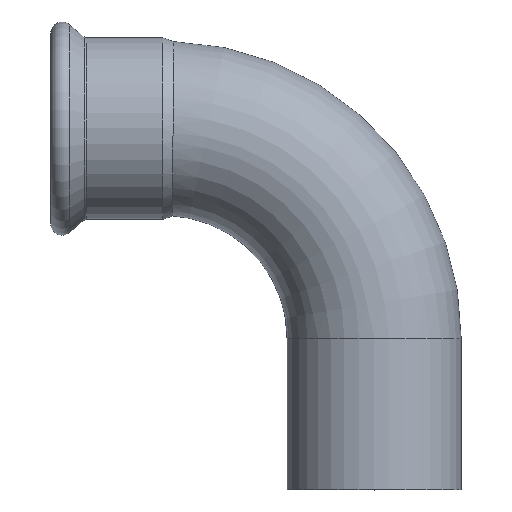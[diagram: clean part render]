
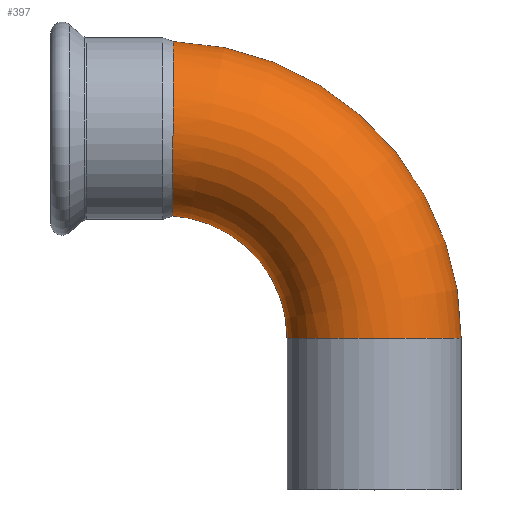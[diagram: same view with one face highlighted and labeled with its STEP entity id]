
A CAD part, top view. The second image highlights one B-rep face of the part: STEP entity #397.
In plain terms, the highlighted toroidal (fillet/blend) face has major radius 130 mm and minor radius 54 mm.
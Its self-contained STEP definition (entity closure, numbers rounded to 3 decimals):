
#332=CARTESIAN_POINT('',(184.0,-130.,0.));
#333=VERTEX_POINT('',#332);
#334=CARTESIAN_POINT('',(130.0,-130.,0.0));
#335=DIRECTION('',(0.0,1.0,0.0));
#336=DIRECTION('',(-1.0,0.0,0.0));
#337=AXIS2_PLACEMENT_3D('',#334,#335,#336);
#338=CIRCLE('',#337,54.0);
#339=EDGE_CURVE('',#333,#333,#338,.T.);
#344=CARTESIAN_POINT('',(0.,-130.0,0.0));
#345=DIRECTION('',(0.0,0.0,-1.0));
#346=DIRECTION('',(-1.0,0.0,0.0));
#347=AXIS2_PLACEMENT_3D('',#344,#345,#346);
#348=TOROIDAL_SURFACE('',#347,130.0,54.0);
#349=ORIENTED_EDGE('',*,*,#339,.T.);
#350=EDGE_LOOP('',(#349));
#351=FACE_OUTER_BOUND('',#350,.T.);
#352=CARTESIAN_POINT('',(5.538,53.917,0.));
#353=VERTEX_POINT('',#352);
#354=CARTESIAN_POINT('',(5.538,53.917,0.));
#355=CARTESIAN_POINT('',(5.538,53.917,-7.004));
#356=CARTESIAN_POINT('',(5.534,52.553,-13.942));
#357=CARTESIAN_POINT('',(5.516,47.291,-26.815));
#358=CARTESIAN_POINT('',(5.503,43.478,-32.645));
#359=CARTESIAN_POINT('',(5.467,33.936,-42.477));
#360=CARTESIAN_POINT('',(5.445,28.324,-46.418));
#361=CARTESIAN_POINT('',(5.391,16.015,-51.974));
#362=CARTESIAN_POINT('',(5.36,9.442,-53.571));
#363=CARTESIAN_POINT('',(5.289,-3.932,-54.277));
#364=CARTESIAN_POINT('',(5.249,-10.616,-53.389));
#365=CARTESIAN_POINT('',(5.162,-23.458,-49.175));
#366=CARTESIAN_POINT('',(5.116,-29.488,-45.834));
#367=CARTESIAN_POINT('',(5.025,-40.22,-36.886));
#368=CARTESIAN_POINT('',(4.98,-44.745,-31.27));
#369=CARTESIAN_POINT('',(4.917,-50.782,-19.689));
#370=CARTESIAN_POINT('',(4.896,-52.636,-14.026));
#371=CARTESIAN_POINT('',(4.879,-54.087,-4.566));
#372=CARTESIAN_POINT('',(4.877,-54.273,-0.911));
#373=CARTESIAN_POINT('',(4.882,-53.872,6.974));
#374=CARTESIAN_POINT('',(4.89,-53.157,11.171));
#375=CARTESIAN_POINT('',(4.926,-49.93,22.126));
#376=CARTESIAN_POINT('',(4.963,-46.548,28.537));
#377=CARTESIAN_POINT('',(5.047,-37.673,39.424));
#378=CARTESIAN_POINT('',(5.093,-32.357,43.871));
#379=CARTESIAN_POINT('',(5.187,-20.097,50.676));
#380=CARTESIAN_POINT('',(5.233,-13.215,52.873));
#381=CARTESIAN_POINT('',(5.317,0.993,54.459));
#382=CARTESIAN_POINT('',(5.354,8.178,53.837));
#383=CARTESIAN_POINT('',(5.418,21.895,49.834));
#384=CARTESIAN_POINT('',(5.445,28.29,46.491));
#385=CARTESIAN_POINT('',(5.488,39.41,37.509));
#386=CARTESIAN_POINT('',(5.505,44.025,31.957));
#387=CARTESIAN_POINT('',(5.524,49.531,21.769));
#388=CARTESIAN_POINT('',(5.529,51.15,17.626));
#389=CARTESIAN_POINT('',(5.536,53.355,8.975));
#390=CARTESIAN_POINT('',(5.538,53.917,4.496));
#391=CARTESIAN_POINT('',(5.538,53.917,0.0));
#392=B_SPLINE_CURVE_WITH_KNOTS('',3,(#354,#355,#356,#357,#358,#359,#360,#361,#362,#363,#364,#365,#366,#367,#368,#369,#370,#371,#372,#373,#374,#375,#376,#377,#378,#379,#380,#381,#382,#383,#384,#385,#386,#387,#388,#389,#390,#391),.UNSPECIFIED.,.T.,.U.,(4,2,2,2,2,2,2,2,2,2,2,2,2,2,2,2,2,2,4),(0.0,2.101,4.172,6.211,8.223,10.229,12.278,14.421,16.197,17.292,18.565,20.718,22.779,24.925,27.068,29.211,31.356,32.685,34.034),.UNSPECIFIED.);
#393=EDGE_CURVE('',#353,#353,#392,.T.);
#394=ORIENTED_EDGE('',*,*,#393,.F.);
#395=EDGE_LOOP('',(#394));
#396=FACE_BOUND('',#395,.T.);
#397=ADVANCED_FACE('',(#351,#396),#348,.T.);
